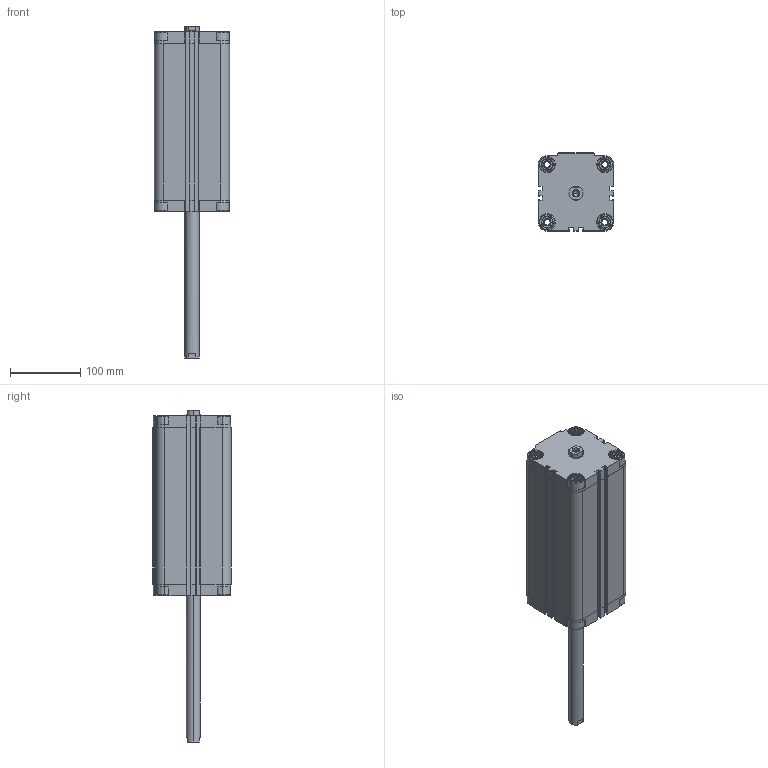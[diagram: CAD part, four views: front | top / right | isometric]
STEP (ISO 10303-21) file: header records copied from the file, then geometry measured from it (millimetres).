
FILE_DESCRIPTION (( 'STEP AP203' ), '1' );
FILE_NAME ('CDVU80-200F-P.STEP', '2020-07-24T18:41:48', ( '' ), ( '' ), 'SwSTEP 2.0', 'SolidWorks 2019', '' );
FILE_SCHEMA (( 'CONFIG_CONTROL_DESIGN' ));
Length unit declared in the file: millimetre
Products named in the file (1): CDVU80-200F-P
Bounding box: 107 x 111 x 472 mm (x, y, z)
Volume: 1839868.3 mm3; surface area: 309370.5 mm2
Topology: 2 solids, 2 shells, 670 faces, 1812 edges, 1188 vertices
Faces by surface type: plane 394, cylinder 212, cone 64
Entity records: 21267 total; most frequent: CARTESIAN_POINT 4239, ORIENTED_EDGE 3608, DIRECTION 3458, EDGE_CURVE 1804, VERTEX_POINT 1188, AXIS2_PLACEMENT_3D 1175, LINE 1108, VECTOR 1108
